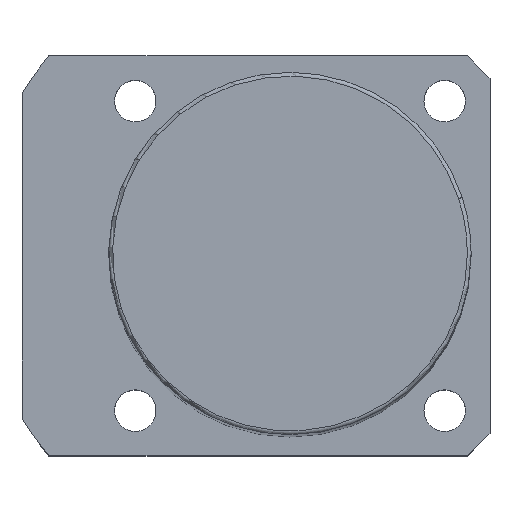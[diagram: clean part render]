
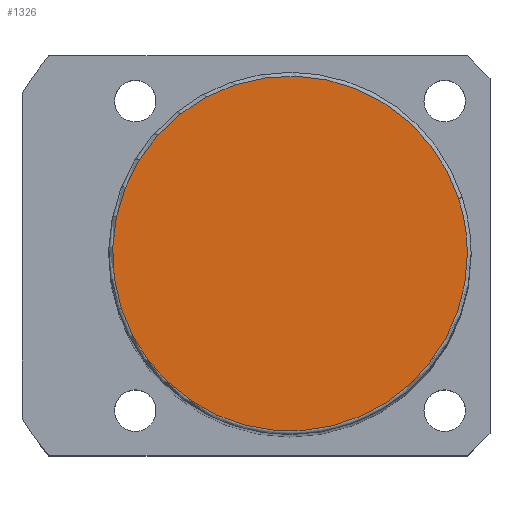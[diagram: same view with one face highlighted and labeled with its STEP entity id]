
A CAD part, top view. The second image highlights one B-rep face of the part: STEP entity #1326.
In plain terms, the highlighted planar face has unit normal (0, 0, 1).
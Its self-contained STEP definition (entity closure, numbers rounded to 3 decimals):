
#1259=CARTESIAN_POINT('',(22.35,7.262,189.0));
#1260=VERTEX_POINT('',#1259);
#1278=CARTESIAN_POINT('',(-22.35,-7.262,189.0));
#1279=VERTEX_POINT('',#1278);
#1287=CARTESIAN_POINT('',(0.0,0.0,189.0));
#1288=DIRECTION('',(0.0,0.0,1.0));
#1289=DIRECTION('',(1.0,0.0,0.0));
#1290=AXIS2_PLACEMENT_3D('',#1287,#1288,#1289);
#1291=CIRCLE('',#1290,23.5);
#1292=EDGE_CURVE('no 1819',#1260,#1279,#1291,.T.);
#1302=CARTESIAN_POINT('',(23.5,0.0,189.0));
#1303=VERTEX_POINT('',#1302);
#1304=CARTESIAN_POINT('',(0.0,0.0,189.0));
#1305=DIRECTION('',(0.0,0.0,1.0));
#1306=DIRECTION('',(1.0,0.0,0.0));
#1307=AXIS2_PLACEMENT_3D('',#1304,#1305,#1306);
#1308=CIRCLE('',#1307,23.5);
#1309=EDGE_CURVE('no 1828',#1303,#1260,#1308,.T.);
#1310=ORIENTED_EDGE('',*,*,#1309,.T.);
#1311=ORIENTED_EDGE('',*,*,#1292,.T.);
#1312=CARTESIAN_POINT('',(0.0,0.0,189.0));
#1313=DIRECTION('',(0.0,0.0,1.0));
#1314=DIRECTION('',(1.0,0.0,0.0));
#1315=AXIS2_PLACEMENT_3D('',#1312,#1313,#1314);
#1316=CIRCLE('',#1315,23.5);
#1317=EDGE_CURVE('no 1834',#1279,#1303,#1316,.T.);
#1318=ORIENTED_EDGE('',*,*,#1317,.T.);
#1319=EDGE_LOOP('',(#1310,#1311,#1318));
#1320=FACE_OUTER_BOUND('',#1319,.T.);
#1321=CARTESIAN_POINT('',(0.0,0.0,189.0));
#1322=DIRECTION('',(0.0,0.0,1.0));
#1323=DIRECTION('',(1.0,0.0,0.0));
#1324=AXIS2_PLACEMENT_3D('',#1321,#1322,#1323);
#1325=PLANE('',#1324);
#1326=ADVANCED_FACE('no 1821',(#1320),#1325,.T.);
